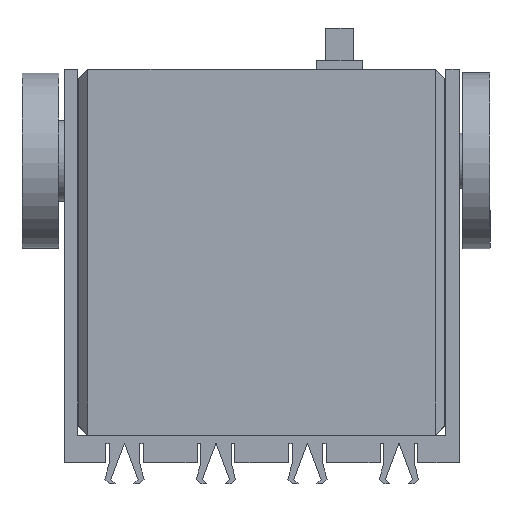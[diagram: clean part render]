
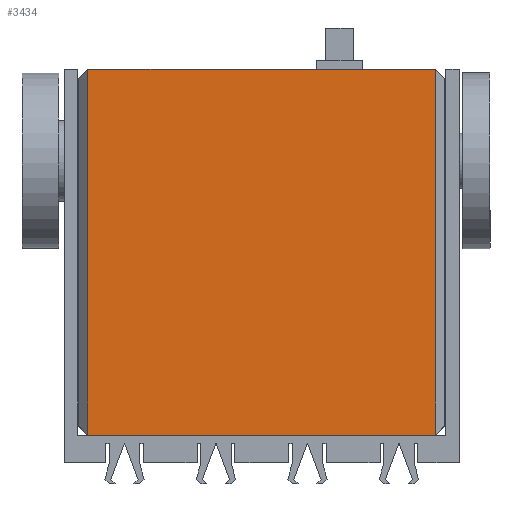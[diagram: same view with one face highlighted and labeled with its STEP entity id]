
A CAD part, top view. The second image highlights one B-rep face of the part: STEP entity #3434.
In plain terms, the highlighted planar face has unit normal (0, 0, 1).
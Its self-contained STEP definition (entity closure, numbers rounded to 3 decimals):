
#347=FACE_OUTER_BOUND('',#551,.T.);
#551=EDGE_LOOP('',(#2414,#2415,#2416,#2417));
#837=LINE('',#5070,#1188);
#842=LINE('',#5079,#1193);
#847=LINE('',#5109,#1198);
#855=LINE('',#5123,#1206);
#1188=VECTOR('',#4043,10.);
#1193=VECTOR('',#4052,10.);
#1198=VECTOR('',#4081,10.);
#1206=VECTOR('',#4097,10.);
#1527=VERTEX_POINT('',#5062);
#1529=VERTEX_POINT('',#5068);
#1531=VERTEX_POINT('',#5077);
#1544=VERTEX_POINT('',#5107);
#1863=EDGE_CURVE('',#1529,#1527,#837,.T.);
#1868=EDGE_CURVE('',#1531,#1529,#842,.T.);
#1882=EDGE_CURVE('',#1544,#1531,#847,.T.);
#1890=EDGE_CURVE('',#1544,#1527,#855,.T.);
#2414=ORIENTED_EDGE('',*,*,#1863,.F.);
#2415=ORIENTED_EDGE('',*,*,#1868,.F.);
#2416=ORIENTED_EDGE('',*,*,#1882,.F.);
#2417=ORIENTED_EDGE('',*,*,#1890,.T.);
#3300=PLANE('',#3677);
#3434=ADVANCED_FACE('',(#347),#3300,.F.);
#3677=AXIS2_PLACEMENT_3D('',#5122,#4095,#4096);
#4043=DIRECTION('',(-1.,0.,0.));
#4052=DIRECTION('',(0.,-1.,0.));
#4081=DIRECTION('',(1.,0.,0.));
#4095=DIRECTION('center_axis',(0.,0.,-1.));
#4096=DIRECTION('ref_axis',(0.,1.,0.));
#4097=DIRECTION('',(0.,-1.,0.));
#5062=CARTESIAN_POINT('',(0.,1.,20.));
#5068=CARTESIAN_POINT('',(40.,1.,20.));
#5070=CARTESIAN_POINT('',(20.,1.,20.));
#5077=CARTESIAN_POINT('',(40.,39.,20.));
#5079=CARTESIAN_POINT('',(40.,20.,20.));
#5107=CARTESIAN_POINT('',(0.,39.,20.));
#5109=CARTESIAN_POINT('',(20.,39.,20.));
#5122=CARTESIAN_POINT('Origin',(20.,20.,20.));
#5123=CARTESIAN_POINT('',(0.,20.,20.));
